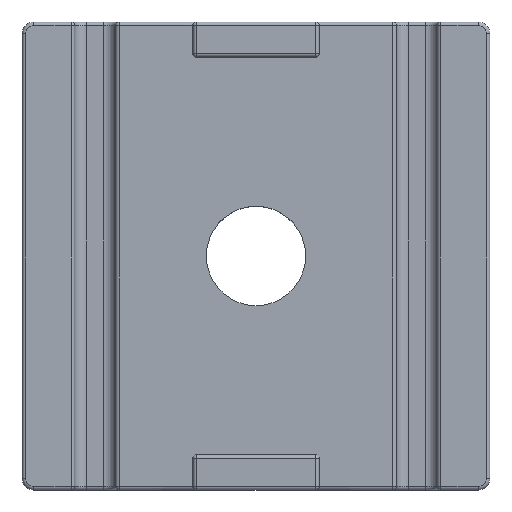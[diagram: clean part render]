
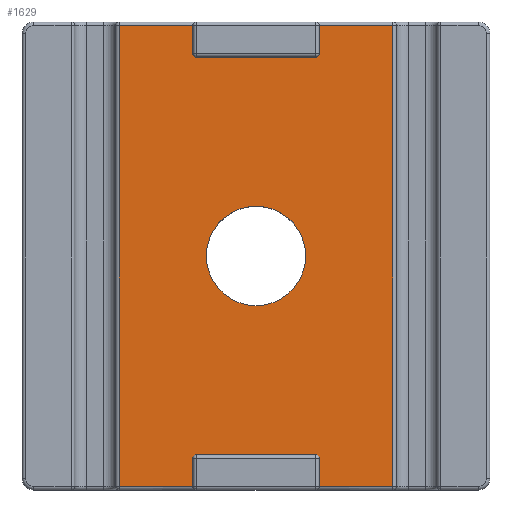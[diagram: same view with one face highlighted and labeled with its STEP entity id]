
A CAD part, top view. The second image highlights one B-rep face of the part: STEP entity #1629.
In plain terms, the highlighted planar face has unit normal (0, 0, 1).
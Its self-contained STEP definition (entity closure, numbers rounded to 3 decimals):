
#15=FACE_BOUND('',#551,.T.);
#38=PLANE('',#1864);
#63=LINE('',#2581,#178);
#68=LINE('',#2590,#183);
#76=LINE('',#2607,#191);
#92=LINE('',#2656,#207);
#103=LINE('',#2688,#218);
#117=LINE('',#2730,#232);
#155=LINE('',#2854,#270);
#156=LINE('',#2856,#271);
#157=LINE('',#2858,#272);
#165=LINE('',#2883,#280);
#166=LINE('',#2885,#281);
#167=LINE('',#2887,#282);
#178=VECTOR('',#2025,10.);
#183=VECTOR('',#2036,10.);
#191=VECTOR('',#2054,10.);
#207=VECTOR('',#2112,10.);
#218=VECTOR('',#2149,10.);
#232=VECTOR('',#2199,10.);
#270=VECTOR('',#2353,10.);
#271=VECTOR('',#2356,10.);
#272=VECTOR('',#2359,10.);
#280=VECTOR('',#2391,10.);
#281=VECTOR('',#2394,10.);
#282=VECTOR('',#2397,10.);
#441=FACE_OUTER_BOUND('',#550,.T.);
#550=EDGE_LOOP('',(#1428,#1429,#1430,#1431,#1432,#1433,#1434,#1435,#1436,
#1437,#1438,#1439,#1440,#1441,#1442,#1443));
#551=EDGE_LOOP('',(#1444));
#625=CIRCLE('',#1749,0.3);
#630=CIRCLE('',#1760,0.3);
#636=CIRCLE('',#1773,0.3);
#644=CIRCLE('',#1791,0.3);
#674=CIRCLE('',#1865,4.25);
#703=VERTEX_POINT('',#2504);
#712=VERTEX_POINT('',#2525);
#728=VERTEX_POINT('',#2562);
#734=VERTEX_POINT('',#2576);
#735=VERTEX_POINT('',#2580);
#740=VERTEX_POINT('',#2606);
#745=VERTEX_POINT('',#2622);
#747=VERTEX_POINT('',#2631);
#748=VERTEX_POINT('',#2632);
#753=VERTEX_POINT('',#2658);
#754=VERTEX_POINT('',#2659);
#761=VERTEX_POINT('',#2691);
#762=VERTEX_POINT('',#2692);
#764=VERTEX_POINT('',#2702);
#771=VERTEX_POINT('',#2733);
#772=VERTEX_POINT('',#2734);
#804=VERTEX_POINT('',#2889);
#866=EDGE_CURVE('',#735,#734,#63,.T.);
#872=EDGE_CURVE('',#734,#728,#68,.T.);
#881=EDGE_CURVE('',#728,#740,#76,.T.);
#894=EDGE_CURVE('',#747,#748,#625,.F.);
#908=EDGE_CURVE('',#712,#745,#92,.T.);
#909=EDGE_CURVE('',#753,#754,#630,.F.);
#925=EDGE_CURVE('',#703,#712,#103,.T.);
#927=EDGE_CURVE('',#761,#762,#636,.F.);
#948=EDGE_CURVE('',#764,#703,#117,.T.);
#950=EDGE_CURVE('',#771,#772,#644,.F.);
#1014=EDGE_CURVE('',#735,#748,#155,.T.);
#1015=EDGE_CURVE('',#747,#754,#156,.T.);
#1016=EDGE_CURVE('',#753,#745,#157,.T.);
#1026=EDGE_CURVE('',#761,#740,#165,.T.);
#1027=EDGE_CURVE('',#771,#762,#166,.T.);
#1028=EDGE_CURVE('',#764,#772,#167,.T.);
#1029=EDGE_CURVE('',#804,#804,#674,.T.);
#1428=ORIENTED_EDGE('',*,*,#866,.F.);
#1429=ORIENTED_EDGE('',*,*,#1014,.T.);
#1430=ORIENTED_EDGE('',*,*,#894,.F.);
#1431=ORIENTED_EDGE('',*,*,#1015,.T.);
#1432=ORIENTED_EDGE('',*,*,#909,.F.);
#1433=ORIENTED_EDGE('',*,*,#1016,.T.);
#1434=ORIENTED_EDGE('',*,*,#908,.F.);
#1435=ORIENTED_EDGE('',*,*,#925,.F.);
#1436=ORIENTED_EDGE('',*,*,#948,.F.);
#1437=ORIENTED_EDGE('',*,*,#1028,.T.);
#1438=ORIENTED_EDGE('',*,*,#950,.F.);
#1439=ORIENTED_EDGE('',*,*,#1027,.T.);
#1440=ORIENTED_EDGE('',*,*,#927,.F.);
#1441=ORIENTED_EDGE('',*,*,#1026,.T.);
#1442=ORIENTED_EDGE('',*,*,#881,.F.);
#1443=ORIENTED_EDGE('',*,*,#872,.F.);
#1444=ORIENTED_EDGE('',*,*,#1029,.T.);
#1629=ADVANCED_FACE('',(#441,#15),#38,.T.);
#1749=AXIS2_PLACEMENT_3D('',#2633,#2083,#2084);
#1760=AXIS2_PLACEMENT_3D('',#2660,#2115,#2116);
#1773=AXIS2_PLACEMENT_3D('',#2693,#2153,#2154);
#1791=AXIS2_PLACEMENT_3D('',#2735,#2203,#2204);
#1864=AXIS2_PLACEMENT_3D('',#2888,#2398,#2399);
#1865=AXIS2_PLACEMENT_3D('',#2890,#2400,#2401);
#2025=DIRECTION('',(-1.,0.,0.));
#2036=DIRECTION('',(0.,1.,0.));
#2054=DIRECTION('',(1.,0.,0.));
#2083=DIRECTION('center_axis',(0.,0.,
-1.));
#2084=DIRECTION('ref_axis',(-0.707,0.707,0.));
#2112=DIRECTION('',(-1.,0.,0.));
#2115=DIRECTION('center_axis',(0.,0.,
-1.));
#2116=DIRECTION('ref_axis',(0.707,0.707,0.));
#2149=DIRECTION('',(0.,-1.,0.));
#2153=DIRECTION('center_axis',(0.,0.,
-1.));
#2154=DIRECTION('ref_axis',(-0.707,-0.707,0.));
#2199=DIRECTION('',(1.,0.,0.));
#2203=DIRECTION('center_axis',(0.,0.,
-1.));
#2204=DIRECTION('ref_axis',(0.707,-0.707,0.));
#2353=DIRECTION('',(0.,1.,0.));
#2356=DIRECTION('',(1.,0.,0.));
#2359=DIRECTION('',(0.,-1.,0.));
#2391=DIRECTION('',(0.,1.,0.));
#2394=DIRECTION('',(-1.,0.,0.));
#2397=DIRECTION('',(0.,-1.,0.));
#2398=DIRECTION('center_axis',(0.,0.,
1.));
#2399=DIRECTION('ref_axis',(1.,0.,0.));
#2400=DIRECTION('center_axis',(0.,0.,
-1.));
#2401=DIRECTION('ref_axis',(-1.,0.,0.));
#2504=CARTESIAN_POINT('',(-6.937,10.663,5.1));
#2525=CARTESIAN_POINT('',(-6.937,-28.737,5.1));
#2562=CARTESIAN_POINT('',(-30.337,10.663,5.1));
#2576=CARTESIAN_POINT('',(-30.337,-28.737,5.1));
#2580=CARTESIAN_POINT('',(-24.037,-28.737,5.1));
#2581=CARTESIAN_POINT('',(-3.137,-28.737,5.1));
#2590=CARTESIAN_POINT('',(-30.337,-29.037,5.1));
#2606=CARTESIAN_POINT('',(-24.037,10.663,5.1));
#2607=CARTESIAN_POINT('',(-22.137,10.663,5.1));
#2622=CARTESIAN_POINT('',(-13.237,-28.737,5.1));
#2631=CARTESIAN_POINT('',(-23.737,-26.037,5.1));
#2632=CARTESIAN_POINT('',(-24.037,-26.337,5.1));
#2633=CARTESIAN_POINT('Origin',(-23.737,-26.337,5.1));
#2656=CARTESIAN_POINT('',(-3.137,-28.737,5.1));
#2658=CARTESIAN_POINT('',(-13.237,-26.337,5.1));
#2659=CARTESIAN_POINT('',(-13.537,-26.037,5.1));
#2660=CARTESIAN_POINT('Origin',(-13.537,-26.337,5.1));
#2688=CARTESIAN_POINT('',(-6.937,-29.037,5.1));
#2691=CARTESIAN_POINT('',(-24.037,8.263,5.1));
#2692=CARTESIAN_POINT('',(-23.737,7.963,5.1));
#2693=CARTESIAN_POINT('Origin',(-23.737,8.263,5.1));
#2702=CARTESIAN_POINT('',(-13.237,10.663,5.1));
#2730=CARTESIAN_POINT('',(-22.137,10.663,5.1));
#2733=CARTESIAN_POINT('',(-13.537,7.963,5.1));
#2734=CARTESIAN_POINT('',(-13.237,8.263,5.1));
#2735=CARTESIAN_POINT('Origin',(-13.537,8.263,5.1));
#2854=CARTESIAN_POINT('',(-24.037,-29.037,5.1));
#2856=CARTESIAN_POINT('',(-15.337,-26.037,5.1));
#2858=CARTESIAN_POINT('',(-13.237,-27.537,5.1));
#2883=CARTESIAN_POINT('',(-24.037,-9.037,5.1));
#2885=CARTESIAN_POINT('',(-15.337,7.963,5.1));
#2887=CARTESIAN_POINT('',(-13.237,-10.537,5.1));
#2888=CARTESIAN_POINT('Origin',(-6.637,-29.037,5.1));
#2889=CARTESIAN_POINT('',(-14.387,-9.037,5.1));
#2890=CARTESIAN_POINT('Origin',(-18.637,-9.037,5.1));
